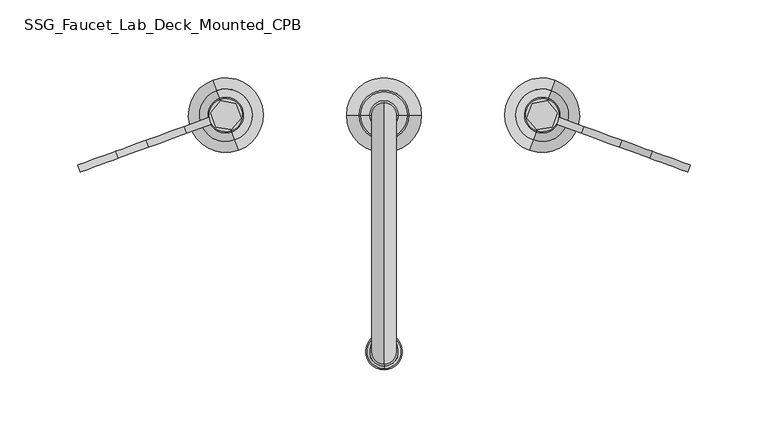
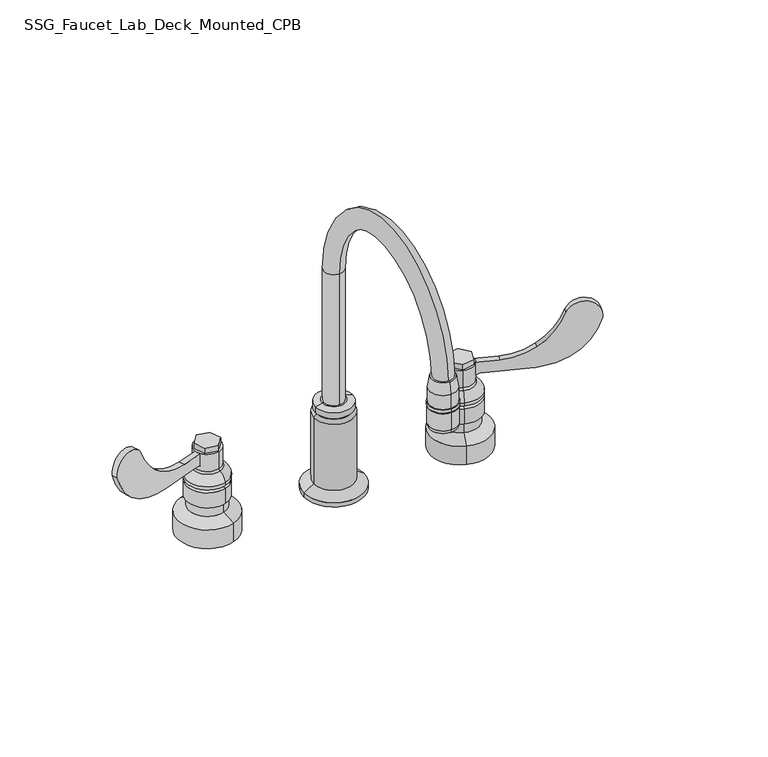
"""IFC4 building model written with IfcOpenShell, lengths in millimetres: flow terminal geometry."""

from ifc_helpers import new_model, si_unit, point, frame, frame_2d, origin, origin_with_axes, place, context, project, spatial, polyline, circle_curve, ellipse_curve, trimmed, segment, composite_curve, outline, extrude, source, transform, mapped, element, save
from ifc_brep_helpers import plane_surface, cylinder_surface, revolved_surface, advanced_brep


def ssg_faucet_lab_deck_mounted_cpb_c43a80bb(model_context):
    return source(origin(), model_context, "Body", "SolidModel", [
        extrude(outline(polyline([(111.3562202, 1.6819252), (107.9627391, -7.6415875), (98.1915996, -9.3645031), (91.8139413, -1.7639059), (95.2074224, 7.5596069), (104.9785618, 9.2825224), (111.3562202, 1.6819252)])), frame((0.0, 0.0, 70.81404), z_axis=(0.0, 0.0, 1.0), x_axis=(1.0, 0.0, 0.0)), (0.0, 0.0, 1.0), 4.4529011),
        advanced_brep(
        [(97.6164778, -10.9446373, 54.3169784), (105.5835222, 10.9446373, 54.3169784), (107.3615028, 15.8295988, 47.6632436), (95.8384972, -15.8295988, 47.6632436), (107.3615028, 15.8295988, 44.9441585), (95.8384972, -15.8295988, 44.9441585), (105.8325495, 11.6288342, 44.9441585), (97.3674505, -11.6288342, 44.9441585), (105.8325495, 11.6288342, 42.3435439), (97.3674505, -11.6288342, 42.3435439), (101.6, 0.0, 42.3435439), (101.6, 0.0, 70.81404), (105.2603622, 10.0567624, 70.81404), (97.9396378, -10.0567624, 70.81404), (105.2603622, 10.0567624, 56.3073231), (97.9396378, -10.0567624, 56.3073231)],
        [
            (0, 1, circle_curve(frame((101.6, 0.0, 54.3169784), z_axis=(0.0, 0.0, -1.0), x_axis=(0.3420201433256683, 0.9396926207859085, 0.0)), 11.6470398)),
            (1, 2, circle_curve(frame((103.1940525, 4.3796233, 43.5010385), z_axis=(-0.9396926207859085, 0.3420201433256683, 0.0), x_axis=(0.3420201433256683, 0.9396926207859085, 0.0)), 12.8760837)),
            (2, 3, circle_curve(frame((101.6, 0.0, 47.6632436), z_axis=(0.0, 0.0, 1.0), x_axis=(0.3420201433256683, 0.9396926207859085, 0.0)), 16.8455071)),
            (3, 0, circle_curve(frame((100.0059475, -4.3796233, 43.5010385), z_axis=(-0.9396926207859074, 0.3420201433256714, 0.0), x_axis=(-0.3420201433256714, -0.9396926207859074, 0.0)), 12.8760837)),
            (1, 0, circle_curve(frame((101.6, 0.0, 54.3169784), z_axis=(0.0, 0.0, -1.0), x_axis=(0.3420201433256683, 0.9396926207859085, 0.0)), 11.6470398)),
            (3, 2, circle_curve(frame((101.6, 0.0, 47.6632436), z_axis=(0.0, 0.0, 1.0), x_axis=(0.3420201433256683, 0.9396926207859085, 0.0)), 16.8455071)),
            (2, 4),
            (4, 5, circle_curve(frame((101.6, 0.0, 44.9441585), z_axis=(0.0, 0.0, 1.0), x_axis=(0.3420201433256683, 0.9396926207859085, 0.0)), 16.8455071)),
            (5, 3),
            (5, 4, circle_curve(frame((101.6, 0.0, 44.9441585), z_axis=(0.0, 0.0, 1.0), x_axis=(0.3420201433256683, 0.9396926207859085, 0.0)), 16.8455071)),
            (4, 6),
            (6, 7, circle_curve(frame((101.6, 0.0, 44.9441585), z_axis=(0.0, 0.0, 1.0), x_axis=(0.3420201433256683, 0.9396926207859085, 0.0)), 12.3751469)),
            (7, 5),
            (7, 6, circle_curve(frame((101.6, 0.0, 44.9441585), z_axis=(0.0, 0.0, 1.0), x_axis=(0.3420201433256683, 0.9396926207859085, 0.0)), 12.3751469)),
            (6, 8),
            (8, 9, circle_curve(frame((101.6, 0.0, 42.3435439), z_axis=(0.0, 0.0, 1.0), x_axis=(0.3420201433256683, 0.9396926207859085, 0.0)), 12.3751469)),
            (9, 7),
            (9, 8, circle_curve(frame((101.6, 0.0, 42.3435439), z_axis=(0.0, 0.0, 1.0), x_axis=(0.3420201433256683, 0.9396926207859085, 0.0)), 12.3751469)),
            (8, 10),
            (10, 9),
            (11, 12),
            (12, 13, circle_curve(frame((101.6, 0.0, 70.81404), z_axis=(0.0, 0.0, 1.0), x_axis=(0.3420201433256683, 0.9396926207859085, 0.0)), 10.702183)),
            (13, 11),
            (13, 12, circle_curve(frame((101.6, 0.0, 70.81404), z_axis=(0.0, 0.0, 1.0), x_axis=(0.3420201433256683, 0.9396926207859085, 0.0)), 10.702183)),
            (12, 14),
            (14, 15, circle_curve(frame((101.6, 0.0, 56.3073231), z_axis=(0.0, 0.0, 1.0), x_axis=(0.3420201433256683, 0.9396926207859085, 0.0)), 10.702183)),
            (15, 13),
            (15, 14, circle_curve(frame((101.6, 0.0, 56.3073231), z_axis=(0.0, 0.0, 1.0), x_axis=(0.3420201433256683, 0.9396926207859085, 0.0)), 10.702183)),
            (14, 1, circle_curve(frame((106.1389308, 12.47061, 56.3073231), z_axis=(0.9396926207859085, -0.3420201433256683, 0.0), x_axis=(0.3420201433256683, 0.9396926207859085, 0.0)), 2.568763)),
            (0, 15, circle_curve(frame((97.0610692, -12.47061, 56.3073231), z_axis=(0.9396926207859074, -0.3420201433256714, 0.0), x_axis=(-0.3420201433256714, -0.9396926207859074, 0.0)), 2.568763)),
        ],
        [
            revolved_surface(trimmed(ellipse_curve(frame((103.1940525, 4.3796233, 43.5010385), z_axis=(0.9396926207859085, -0.3420201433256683, 0.0), x_axis=(0.3420201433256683, 0.9396926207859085, 0.0)), 12.8760837, 12.8760837), [point((107.3615028, 15.8295988, 47.6632436))], [point((105.5835222, 10.9446373, 54.3169784))], True, "CARTESIAN"), (101.6, 0.0, 52.2671683), (0.0, 0.0, 1.0)),
            cylinder_surface(frame((101.6, 0.0, 52.2671683), z_axis=(0.0, 0.0, 1.0), x_axis=(0.3420201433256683, 0.9396926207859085, 0.0)), 16.8455071),
            plane_surface(frame((101.6, 0.0, 44.9441585), z_axis=(0.0, 0.0, -1.0), x_axis=(0.3420201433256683, 0.9396926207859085, 0.0))),
            cylinder_surface(frame((101.6, 0.0, 52.2671683), z_axis=(0.0, 0.0, 1.0), x_axis=(0.3420201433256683, 0.9396926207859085, 0.0)), 12.3751469),
            plane_surface(frame((101.6, 0.0, 42.3435439), z_axis=(0.0, 0.0, -1.0), x_axis=(0.3420201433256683, 0.9396926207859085, 0.0))),
            plane_surface(frame((101.6, 0.0, 70.81404), z_axis=(0.0, 0.0, 1.0), x_axis=(0.3420201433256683, 0.9396926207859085, 0.0))),
            cylinder_surface(frame((101.6, 0.0, 52.2671683), z_axis=(0.0, 0.0, 1.0), x_axis=(0.3420201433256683, 0.9396926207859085, 0.0)), 10.702183),
            revolved_surface(trimmed(ellipse_curve(frame((106.1389308, 12.47061, 56.3073231), z_axis=(-0.9396926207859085, 0.3420201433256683, 0.0), x_axis=(0.3420201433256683, 0.9396926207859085, 0.0)), 2.568763, 2.568763), [point((105.5835222, 10.9446373, 54.3169784))], [point((105.2603622, 10.0567624, 56.3073231))], True, "CARTESIAN"), (101.6, 0.0, 52.2671683), (0.0, 0.0, 1.0)),
        ],
        [
            (0, [[1, 2, 3, 4]]),
            (0, [[5, -4, 6, -2]]),
            (1, [[-3, 7, 8, 9]]),
            (1, [[-6, -9, 10, -7]]),
            (2, [[-8, 11, 12, 13]]),
            (2, [[-10, -13, 14, -11]]),
            (3, [[-12, 15, 16, 17]]),
            (3, [[-14, -17, 18, -15]]),
            (4, [[-16, 19, 20]]),
            (4, [[-18, -20, -19]]),
            (5, [[21, 22, 23]]),
            (5, [[-23, 24, -21]]),
            (6, [[-22, 25, 26, 27]]),
            (6, [[-24, -27, 28, -25]]),
            (7, [[-26, 29, -1, 30]]),
            (7, [[-28, -30, -5, -29]]),
        ],
    ),
        extrude(outline(composite_curve([segment(trimmed(circle_curve(frame_2d((0.0, 4.1622664)), 4.1622664), [point((0.8521871, 0.0881728))], [point((4.1622663, 4.1622664))], True, "CARTESIAN"), True, "CONTINUOUS"), segment(polyline([(4.1622663, 4.1622664), (4.1622663, 39.2241433)]), True, "CONTINUOUS"), segment(trimmed(circle_curve(frame_2d((38.7962827, 41.681158)), 34.72106), [point((4.1622663, 39.2241433))], [point((4.7089611, 48.2846812))], False, "CARTESIAN"), True, "CONTINUOUS"), segment(trimmed(circle_curve(frame_2d((53.1816235, 43.6645786)), 48.6923438), [point((4.7089611, 48.2846812))], [point((41.1460336, 90.8460254))], False, "CARTESIAN"), True, "CONTINUOUS"), segment(trimmed(circle_curve(frame_2d((42.9702995, 77.4580282)), 13.511714), [point((41.1460336, 90.8460254))], [point((48.0778892, 64.9488738))], False, "CARTESIAN"), True, "CONTINUOUS"), segment(trimmed(circle_curve(frame_2d((66.051944, 14.6600326)), 53.40444), [point((48.0778892, 64.9488738))], [point((21.5524774, 44.1868285))], True, "CARTESIAN"), True, "CONTINUOUS"), segment(trimmed(circle_curve(frame_2d((60.6830027, 18.222494)), 46.9610975), [point((21.5524774, 44.1868285))], [point((13.7219052, 18.222494))], True, "CARTESIAN"), True, "CONTINUOUS"), segment(polyline([(13.7219052, 18.222494), (13.7219052, 0.0881728), (0.8521871, 0.0881728)]), True, "CONTINUOUS")], self_intersect=False)), frame((109.5318378, -5.4210262, 57.0868031), z_axis=(0.34202014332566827, 0.9396926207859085, 0.0), x_axis=(0.0, 0.0, 1.0)), (0.0, 0.0, 1.0), 4.7625),
        extrude(outline(polyline([(-111.3562202, 1.6819252), (-104.9785618, 9.2825224), (-95.2074224, 7.5596069), (-91.8139413, -1.7639059), (-98.1915996, -9.3645031), (-107.9627391, -7.6415875), (-111.3562202, 1.6819252)])), frame((0.0, 0.0, 70.81404), z_axis=(0.0, 0.0, 1.0), x_axis=(1.0, 0.0, 0.0)), (0.0, 0.0, 1.0), 4.4529011),
        advanced_brep(
        [(-95.8384972, -15.8295988, 47.6632436), (-107.3615028, 15.8295988, 47.6632436), (-105.5835222, 10.9446373, 54.3169784), (-97.6164778, -10.9446373, 54.3169784), (-95.8384972, -15.8295988, 44.9441585), (-107.3615028, 15.8295988, 44.9441585), (-97.3674505, -11.6288342, 44.9441585), (-105.8325495, 11.6288342, 44.9441585), (-97.3674505, -11.6288342, 42.3435439), (-105.8325495, 11.6288342, 42.3435439), (-101.6, 0.0, 42.3435439), (-97.9396378, -10.0567624, 70.81404), (-105.2603622, 10.0567624, 70.81404), (-101.6, 0.0, 70.81404), (-97.9396378, -10.0567624, 56.3073231), (-105.2603622, 10.0567624, 56.3073231)],
        [
            (0, 1, circle_curve(frame((-101.6, 0.0, 47.6632436), z_axis=(0.0, 0.0, 1.0), x_axis=(-0.3420201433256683, 0.9396926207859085, 0.0)), 16.8455071)),
            (1, 2, circle_curve(frame((-103.1940525, 4.3796233, 43.5010385), z_axis=(0.9396926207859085, 0.3420201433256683, 0.0), x_axis=(-0.3420201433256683, 0.9396926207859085, 0.0)), 12.8760837)),
            (2, 3, circle_curve(frame((-101.6, 0.0, 54.3169784), z_axis=(0.0, 0.0, -1.0), x_axis=(-0.3420201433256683, 0.9396926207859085, 0.0)), 11.6470398)),
            (3, 0, circle_curve(frame((-100.0059475, -4.3796233, 43.5010385), z_axis=(0.9396926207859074, 0.3420201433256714, 0.0), x_axis=(0.3420201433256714, -0.9396926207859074, 0.0)), 12.8760837)),
            (1, 0, circle_curve(frame((-101.6, 0.0, 47.6632436), z_axis=(0.0, 0.0, 1.0), x_axis=(-0.3420201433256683, 0.9396926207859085, 0.0)), 16.8455071)),
            (3, 2, circle_curve(frame((-101.6, 0.0, 54.3169784), z_axis=(0.0, 0.0, -1.0), x_axis=(-0.3420201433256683, 0.9396926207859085, 0.0)), 11.6470398)),
            (4, 5, circle_curve(frame((-101.6, 0.0, 44.9441585), z_axis=(0.0, 0.0, 1.0), x_axis=(-0.3420201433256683, 0.9396926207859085, 0.0)), 16.8455071)),
            (5, 1),
            (0, 4),
            (5, 4, circle_curve(frame((-101.6, 0.0, 44.9441585), z_axis=(0.0, 0.0, 1.0), x_axis=(-0.3420201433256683, 0.9396926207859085, 0.0)), 16.8455071)),
            (6, 7, circle_curve(frame((-101.6, 0.0, 44.9441585), z_axis=(0.0, 0.0, 1.0), x_axis=(-0.3420201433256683, 0.9396926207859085, 0.0)), 12.3751469)),
            (7, 5),
            (4, 6),
            (7, 6, circle_curve(frame((-101.6, 0.0, 44.9441585), z_axis=(0.0, 0.0, 1.0), x_axis=(-0.3420201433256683, 0.9396926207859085, 0.0)), 12.3751469)),
            (8, 9, circle_curve(frame((-101.6, 0.0, 42.3435439), z_axis=(0.0, 0.0, 1.0), x_axis=(-0.3420201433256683, 0.9396926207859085, 0.0)), 12.3751469)),
            (9, 7),
            (6, 8),
            (9, 8, circle_curve(frame((-101.6, 0.0, 42.3435439), z_axis=(0.0, 0.0, 1.0), x_axis=(-0.3420201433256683, 0.9396926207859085, 0.0)), 12.3751469)),
            (10, 9),
            (8, 10),
            (11, 12, circle_curve(frame((-101.6, 0.0, 70.81404), z_axis=(0.0, 0.0, 1.0), x_axis=(-0.3420201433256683, 0.9396926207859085, 0.0)), 10.702183)),
            (12, 13),
            (13, 11),
            (12, 11, circle_curve(frame((-101.6, 0.0, 70.81404), z_axis=(0.0, 0.0, 1.0), x_axis=(-0.3420201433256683, 0.9396926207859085, 0.0)), 10.702183)),
            (14, 15, circle_curve(frame((-101.6, 0.0, 56.3073231), z_axis=(0.0, 0.0, 1.0), x_axis=(-0.3420201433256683, 0.9396926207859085, 0.0)), 10.702183)),
            (15, 12),
            (11, 14),
            (15, 14, circle_curve(frame((-101.6, 0.0, 56.3073231), z_axis=(0.0, 0.0, 1.0), x_axis=(-0.3420201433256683, 0.9396926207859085, 0.0)), 10.702183)),
            (2, 15, circle_curve(frame((-106.1389308, 12.47061, 56.3073231), z_axis=(-0.9396926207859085, -0.3420201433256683, 0.0), x_axis=(-0.3420201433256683, 0.9396926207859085, 0.0)), 2.568763)),
            (14, 3, circle_curve(frame((-97.0610692, -12.47061, 56.3073231), z_axis=(-0.9396926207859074, -0.3420201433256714, 0.0), x_axis=(0.3420201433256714, -0.9396926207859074, 0.0)), 2.568763)),
        ],
        [
            revolved_surface(trimmed(ellipse_curve(frame((-103.1940525, 4.3796233, 43.5010385), z_axis=(-0.9396926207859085, -0.3420201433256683, 0.0), x_axis=(-0.3420201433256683, 0.9396926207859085, 0.0)), 12.8760837, 12.8760837), [point((-105.5835222, 10.9446373, 54.3169784))], [point((-107.3615028, 15.8295988, 47.6632436))], True, "CARTESIAN"), (-101.6, 0.0, 52.2671683), (0.0, 0.0, -1.0)),
            cylinder_surface(frame((-101.6, 0.0, 52.2671683), z_axis=(0.0, 0.0, -1.0), x_axis=(-0.3420201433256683, 0.9396926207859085, 0.0)), 16.8455071),
            plane_surface(frame((-101.6, 0.0, 44.9441585), z_axis=(0.0, 0.0, -1.0), x_axis=(-0.3420201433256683, 0.9396926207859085, 0.0))),
            cylinder_surface(frame((-101.6, 0.0, 52.2671683), z_axis=(0.0, 0.0, -1.0), x_axis=(-0.3420201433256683, 0.9396926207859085, 0.0)), 12.3751469),
            plane_surface(frame((-101.6, 0.0, 42.3435439), z_axis=(0.0, 0.0, -1.0), x_axis=(-0.3420201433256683, 0.9396926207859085, 0.0))),
            plane_surface(frame((-101.6, 0.0, 70.81404), z_axis=(0.0, 0.0, 1.0), x_axis=(-0.3420201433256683, 0.9396926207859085, 0.0))),
            cylinder_surface(frame((-101.6, 0.0, 52.2671683), z_axis=(0.0, 0.0, -1.0), x_axis=(-0.3420201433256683, 0.9396926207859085, 0.0)), 10.702183),
            revolved_surface(trimmed(ellipse_curve(frame((-106.1389308, 12.47061, 56.3073231), z_axis=(0.9396926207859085, 0.3420201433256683, 0.0), x_axis=(-0.3420201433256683, 0.9396926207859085, 0.0)), 2.568763, 2.568763), [point((-105.2603622, 10.0567624, 56.3073231))], [point((-105.5835222, 10.9446373, 54.3169784))], True, "CARTESIAN"), (-101.6, 0.0, 52.2671683), (0.0, 0.0, -1.0)),
        ],
        [
            (0, [[1, 2, 3, 4]]),
            (0, [[5, -4, 6, -2]]),
            (1, [[7, 8, -1, 9]]),
            (1, [[10, -9, -5, -8]]),
            (2, [[11, 12, -7, 13]]),
            (2, [[14, -13, -10, -12]]),
            (3, [[15, 16, -11, 17]]),
            (3, [[18, -17, -14, -16]]),
            (4, [[19, -15, 20]]),
            (4, [[-20, -18, -19]]),
            (5, [[21, 22, 23]]),
            (5, [[24, -23, -22]]),
            (6, [[25, 26, -21, 27]]),
            (6, [[28, -27, -24, -26]]),
            (7, [[-3, 29, -25, 30]]),
            (7, [[-6, -30, -28, -29]]),
        ],
    ),
        extrude(outline(composite_curve([segment(polyline([(-12.8697059, 0.0), (0.0, 0.0), (0.0, -18.134328)]), True, "CONTINUOUS"), segment(trimmed(circle_curve(frame_2d((46.9611052, -18.134328)), 46.9611052), [point((0.0, -18.134328))], [point((7.8305735, -44.0986667))], True, "CARTESIAN"), True, "CONTINUOUS"), segment(trimmed(circle_curve(frame_2d((52.3300449, -14.5718677)), 53.4044458), [point((7.8305735, -44.0986667))], [point((34.3573135, -64.8611881))], True, "CARTESIAN"), True, "CONTINUOUS"), segment(trimmed(circle_curve(frame_2d((29.248414, -77.369835)), 13.5117394), [point((34.3573135, -64.8611881))], [point((27.4241447, -90.7578574))], False, "CARTESIAN"), True, "CONTINUOUS"), segment(trimmed(circle_curve(frame_2d((39.4597353, -43.5764067)), 48.6923478), [point((27.4241447, -90.7578574))], [point((-9.012931, -48.1965097))], False, "CARTESIAN"), True, "CONTINUOUS"), segment(trimmed(circle_curve(frame_2d((25.0743897, -41.5929866)), 34.7210592), [point((-9.012931, -48.1965097))], [point((-9.5596258, -39.135972))], False, "CARTESIAN"), True, "CONTINUOUS"), segment(polyline([(-9.5596258, -39.135972), (-9.5596258, -4.0740946)]), True, "CONTINUOUS"), segment(trimmed(circle_curve(frame_2d((-13.7218933, -4.0740946)), 4.1622674), [point((-9.5596258, -4.0740946))], [point((-12.8697059, 0.0))], True, "CARTESIAN"), True, "CONTINUOUS")], self_intersect=False)), frame((-109.6146925, -5.4511828, 70.8086972), z_axis=(-0.3420201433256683, 0.9396926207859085, 0.0), x_axis=(0.0, 0.0, 1.0)), (0.0, 0.0, 1.0), 4.7625),
        advanced_brep(
        [(0.0, -141.20235, 177.6227738), (0.0, -162.8427859, 177.6227738), (0.0, -161.3394214, 187.1146436), (0.0, -142.7057145, 187.1146436), (0.0, -141.20235, 165.7525962), (0.0, -162.8427859, 165.7525962), (0.0, -140.3082608, 165.7525962), (0.0, -163.7368751, 165.7525962), (0.0, -140.3082608, 163.2819791), (0.0, -163.7368751, 163.2819791), (0.0, -142.0514383, 163.2819791), (0.0, -161.9936976, 163.2819791), (0.0, -142.0514383, 162.4252329), (0.0, -161.9936976, 162.4252329), (0.0, -140.5770378, 162.4252329), (0.0, -163.4680981, 162.4252329), (0.0, -140.5770378, 148.0179305), (0.0, -163.4680981, 148.0179305), (0.0, -141.3361244, 145.184981), (0.0, -162.7090116, 145.184981), (0.0, -152.022568, 145.184981), (0.0, -152.022568, 187.1146436)],
        [
            (0, 1, circle_curve(frame((0.0, -152.022568, 177.6227738), z_axis=(0.0, 0.0, 1.0), x_axis=(0.0, -1.0, 0.0)), 10.820218)),
            (1, 2),
            (2, 3, circle_curve(frame((0.0, -152.022568, 187.1146436), z_axis=(0.0, 0.0, -1.0), x_axis=(0.0, -1.0, 0.0)), 9.3168535)),
            (3, 0),
            (1, 0, circle_curve(frame((0.0, -152.022568, 177.6227738), z_axis=(0.0, 0.0, 1.0), x_axis=(0.0, -1.0, 0.0)), 10.820218)),
            (3, 2, circle_curve(frame((0.0, -152.022568, 187.1146436), z_axis=(0.0, 0.0, -1.0), x_axis=(0.0, -1.0, 0.0)), 9.3168535)),
            (4, 5, circle_curve(frame((0.0, -152.022568, 165.7525962), z_axis=(0.0, 0.0, 1.0), x_axis=(0.0, -1.0, 0.0)), 10.820218)),
            (5, 1),
            (0, 4),
            (5, 4, circle_curve(frame((0.0, -152.022568, 165.7525962), z_axis=(0.0, 0.0, 1.0), x_axis=(0.0, -1.0, 0.0)), 10.820218)),
            (6, 7, circle_curve(frame((0.0, -152.022568, 165.7525962), z_axis=(0.0, 0.0, 1.0), x_axis=(0.0, -1.0, 0.0)), 11.7143072)),
            (7, 5),
            (4, 6),
            (7, 6, circle_curve(frame((0.0, -152.022568, 165.7525962), z_axis=(0.0, 0.0, 1.0), x_axis=(0.0, -1.0, 0.0)), 11.7143072)),
            (8, 9, circle_curve(frame((0.0, -152.022568, 163.2819791), z_axis=(0.0, 0.0, 1.0), x_axis=(0.0, -1.0, 0.0)), 11.7143072)),
            (9, 7),
            (6, 8),
            (9, 8, circle_curve(frame((0.0, -152.022568, 163.2819791), z_axis=(0.0, 0.0, 1.0), x_axis=(0.0, -1.0, 0.0)), 11.7143072)),
            (10, 11, circle_curve(frame((0.0, -152.022568, 163.2819791), z_axis=(0.0, 0.0, 1.0), x_axis=(0.0, -1.0, 0.0)), 9.9711296)),
            (11, 9),
            (8, 10),
            (11, 10, circle_curve(frame((0.0, -152.022568, 163.2819791), z_axis=(0.0, 0.0, 1.0), x_axis=(0.0, -1.0, 0.0)), 9.9711296)),
            (12, 13, circle_curve(frame((0.0, -152.022568, 162.4252329), z_axis=(0.0, 0.0, 1.0), x_axis=(0.0, -1.0, 0.0)), 9.9711296)),
            (13, 11),
            (10, 12),
            (13, 12, circle_curve(frame((0.0, -152.022568, 162.4252329), z_axis=(0.0, 0.0, 1.0), x_axis=(0.0, -1.0, 0.0)), 9.9711296)),
            (14, 15, circle_curve(frame((0.0, -152.022568, 162.4252329), z_axis=(0.0, 0.0, 1.0), x_axis=(0.0, -1.0, 0.0)), 11.4455301)),
            (15, 13),
            (12, 14),
            (15, 14, circle_curve(frame((0.0, -152.022568, 162.4252329), z_axis=(0.0, 0.0, 1.0), x_axis=(0.0, -1.0, 0.0)), 11.4455301)),
            (16, 17, circle_curve(frame((0.0, -152.022568, 148.0179305), z_axis=(0.0, 0.0, 1.0), x_axis=(0.0, -1.0, 0.0)), 11.4455301)),
            (17, 15),
            (14, 16),
            (17, 16, circle_curve(frame((0.0, -152.022568, 148.0179305), z_axis=(0.0, 0.0, 1.0), x_axis=(0.0, -1.0, 0.0)), 11.4455301)),
            (18, 19, circle_curve(frame((0.0, -152.022568, 145.184981), z_axis=(0.0, 0.0, 1.0), x_axis=(0.0, -1.0, 0.0)), 10.6864436)),
            (19, 17),
            (16, 18),
            (19, 18, circle_curve(frame((0.0, -152.022568, 145.184981), z_axis=(0.0, 0.0, 1.0), x_axis=(0.0, -1.0, 0.0)), 10.6864436)),
            (20, 19),
            (18, 20),
            (2, 21),
            (21, 3),
        ],
        [
            revolved_surface(polyline([(0.0, -161.3394214, 187.1146436), (0.0, -162.8427859, 177.6227738)]), (0.0, -152.022568, 187.1146436), (0.0, 0.0, -1.0)),
            cylinder_surface(frame((0.0, -152.022568, 187.1146436), z_axis=(0.0, 0.0, -1.0), x_axis=(0.0, -1.0, 0.0)), 10.820218),
            plane_surface(frame((0.0, -152.022568, 165.7525962), z_axis=(0.0, 0.0, 1.0), x_axis=(0.0, -1.0, 0.0))),
            cylinder_surface(frame((0.0, -152.022568, 187.1146436), z_axis=(0.0, 0.0, -1.0), x_axis=(0.0, -1.0, 0.0)), 11.7143072),
            plane_surface(frame((0.0, -152.022568, 163.2819791), z_axis=(0.0, 0.0, -1.0), x_axis=(0.0, -1.0, 0.0))),
            cylinder_surface(frame((0.0, -152.022568, 187.1146436), z_axis=(0.0, 0.0, -1.0), x_axis=(0.0, -1.0, 0.0)), 9.9711296),
            plane_surface(frame((0.0, -152.022568, 162.4252329), z_axis=(0.0, 0.0, 1.0), x_axis=(0.0, -1.0, 0.0))),
            cylinder_surface(frame((0.0, -152.022568, 187.1146436), z_axis=(0.0, 0.0, -1.0), x_axis=(0.0, -1.0, 0.0)), 11.4455301),
            revolved_surface(polyline([(0.0, -163.4680981, 148.0179305), (0.0, -162.7090116, 145.184981)]), (0.0, -152.022568, 187.1146436), (0.0, 0.0, -1.0)),
            plane_surface(frame((0.0, -152.022568, 145.184981), z_axis=(0.0, 0.0, -1.0), x_axis=(0.0, -1.0, 0.0))),
            plane_surface(frame((0.0, -152.022568, 187.1146436), z_axis=(0.0, 0.0, 1.0), x_axis=(0.0, -1.0, 0.0))),
        ],
        [
            (0, [[1, 2, 3, 4]]),
            (0, [[5, -4, 6, -2]]),
            (1, [[7, 8, -1, 9]]),
            (1, [[10, -9, -5, -8]]),
            (2, [[11, 12, -7, 13]]),
            (2, [[14, -13, -10, -12]]),
            (3, [[15, 16, -11, 17]]),
            (3, [[18, -17, -14, -16]]),
            (4, [[19, 20, -15, 21]]),
            (4, [[22, -21, -18, -20]]),
            (5, [[23, 24, -19, 25]]),
            (5, [[26, -25, -22, -24]]),
            (6, [[27, 28, -23, 29]]),
            (6, [[30, -29, -26, -28]]),
            (7, [[31, 32, -27, 33]]),
            (7, [[34, -33, -30, -32]]),
            (8, [[35, 36, -31, 37]]),
            (8, [[38, -37, -34, -36]]),
            (9, [[39, -35, 40]]),
            (9, [[-40, -38, -39]]),
            (10, [[-3, 41, 42]]),
            (10, [[-6, -42, -41]]),
        ],
    ),
        advanced_brep(
        [(0.0, 7.9375, 74.8109375), (0.0, -7.9375, 74.8109375), (0.0, 7.9375, 185.9359375), (0.0, -7.9375, 185.9359375), (0.0, -160.1290077, 187.2358908), (0.0, -144.2559071, 186.990327)],
        [
            (0, 1, circle_curve(frame((0.0, 0.0, 74.8109375), z_axis=(0.0, 0.0, -1.0), x_axis=(0.0, -1.0, 0.0)), 7.9375)),
            (1, 0, circle_curve(frame((0.0, 0.0, 74.8109375), z_axis=(0.0, 0.0, -1.0), x_axis=(0.0, -1.0, 0.0)), 7.9375)),
            (0, 2),
            (2, 3, circle_curve(frame((0.0, 0.0, 185.9359375), z_axis=(0.0, 0.0, -1.0), x_axis=(0.0, -1.0, 0.0)), 7.9375)),
            (3, 1),
            (3, 2, circle_curve(frame((0.0, 0.0, 185.9359375), z_axis=(0.0, 0.0, -1.0), x_axis=(0.0, -1.0, 0.0)), 7.9375)),
            (4, 5, circle_curve(frame((0.0, -152.1924574, 187.1131089), z_axis=(0.0, -0.015468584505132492, -0.9998803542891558), x_axis=(0.0, 0.9998803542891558, -0.015468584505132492)), 7.9375)),
            (5, 4, circle_curve(frame((0.0, -152.1924574, 187.1131089), z_axis=(0.0, -0.015468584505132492, -0.9998803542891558), x_axis=(0.0, 0.9998803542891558, -0.015468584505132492)), 7.9375)),
            (5, 3, circle_curve(frame((0.0, -76.1007813, 185.9359375), z_axis=(-1.0, 0.0, 0.0), x_axis=(0.0, 1.0, 0.0)), 68.1632813)),
            (2, 4, circle_curve(frame((0.0, -76.1007813, 185.9359375), z_axis=(1.0, 0.0, 0.0), x_axis=(0.0, 1.0, 0.0)), 84.0382813)),
        ],
        [
            plane_surface(frame((0.0, 0.0992187, 74.8109375), z_axis=(0.0, 0.0, -1.0), x_axis=(1.0, 0.0, 0.0))),
            cylinder_surface(frame((0.0, 0.0, 74.8109375), z_axis=(0.0, 0.0, -1.0), x_axis=(0.0, -1.0, 0.0)), 7.9375),
            plane_surface(frame((0.0, -152.2916642, 187.1146436), z_axis=(0.0, -0.015468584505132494, -0.9998803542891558), x_axis=(1.0, 0.0, 0.0))),
            revolved_surface(trimmed(ellipse_curve(frame((0.0, 0.0, 185.9359375), z_axis=(0.0, 0.0, -1.0), x_axis=(0.0, -1.0, 0.0)), 7.9375, 7.9375), [point((0.0, 7.9375, 185.9359375))], [point((0.0, -7.9375, 185.9359375))], True, "CARTESIAN"), (0.0, -76.1007813, 185.9359375), (1.0, 0.0, 0.0)),
            revolved_surface(trimmed(ellipse_curve(frame((0.0, 0.0, 185.9359375), z_axis=(0.0, 0.0, -1.0), x_axis=(0.0, -1.0, 0.0)), 7.9375, 7.9375), [point((0.0, -7.9375, 185.9359375))], [point((0.0, 7.9375, 185.9359375))], True, "CARTESIAN"), (0.0, -76.1007813, 185.9359375), (1.0, 0.0, 0.0)),
        ],
        [
            (0, [[1, 2]]),
            (1, [[-1, 3, 4, 5]]),
            (1, [[-2, -5, 6, -3]]),
            (2, [[7, 8]]),
            (3, [[9, -4, 10, -8]]),
            (4, [[-10, -6, -9, -7]]),
        ],
    ),
        advanced_brep(
        [(93.3971947, -22.5370224, 0.0), (109.8028053, 22.5370224, 0.0), (101.6, 0.0, 0.0), (101.6, 0.0, 42.3920344), (107.3615028, 15.8295988, 42.3920344), (95.8384972, -15.8295988, 42.3920344), (107.3615028, 15.8295988, 29.6920344), (95.8384972, -15.8295988, 29.6920344), (106.7216795, 14.0716988, 29.6920344), (96.4783205, -14.0716988, 29.6920344), (106.7216795, 14.0716988, 21.0404673), (96.4783205, -14.0716988, 21.0404673), (109.8028053, 22.5370224, 15.8393443), (93.3971947, -22.5370224, 15.8393443)],
        [
            (0, 1, circle_curve(frame((101.6, 0.0, 0.0), z_axis=(0.0, 0.0, -1.0), x_axis=(0.3420201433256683, 0.9396926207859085, 0.0)), 23.9833983)),
            (1, 2),
            (2, 0),
            (1, 0, circle_curve(frame((101.6, 0.0, 0.0), z_axis=(0.0, 0.0, -1.0), x_axis=(0.3420201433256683, 0.9396926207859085, 0.0)), 23.9833983)),
            (3, 4),
            (4, 5, circle_curve(frame((101.6, 0.0, 42.3920344), z_axis=(0.0, 0.0, 1.0), x_axis=(0.3420201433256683, 0.9396926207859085, 0.0)), 16.8455071)),
            (5, 3),
            (5, 4, circle_curve(frame((101.6, 0.0, 42.3920344), z_axis=(0.0, 0.0, 1.0), x_axis=(0.3420201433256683, 0.9396926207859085, 0.0)), 16.8455071)),
            (4, 6),
            (6, 7, circle_curve(frame((101.6, 0.0, 29.6920344), z_axis=(0.0, 0.0, 1.0), x_axis=(0.3420201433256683, 0.9396926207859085, 0.0)), 16.8455071)),
            (7, 5),
            (7, 6, circle_curve(frame((101.6, 0.0, 29.6920344), z_axis=(0.0, 0.0, 1.0), x_axis=(0.3420201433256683, 0.9396926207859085, 0.0)), 16.8455071)),
            (6, 8),
            (8, 9, circle_curve(frame((101.6, 0.0, 29.6920344), z_axis=(0.0, 0.0, 1.0), x_axis=(0.3420201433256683, 0.9396926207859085, 0.0)), 14.9747891)),
            (9, 7),
            (9, 8, circle_curve(frame((101.6, 0.0, 29.6920344), z_axis=(0.0, 0.0, 1.0), x_axis=(0.3420201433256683, 0.9396926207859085, 0.0)), 14.9747891)),
            (8, 10),
            (10, 11, circle_curve(frame((101.6, 0.0, 21.0404673), z_axis=(0.0, 0.0, 1.0), x_axis=(0.3420201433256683, 0.9396926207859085, 0.0)), 14.9747891)),
            (11, 9),
            (11, 10, circle_curve(frame((101.6, 0.0, 21.0404673), z_axis=(0.0, 0.0, 1.0), x_axis=(0.3420201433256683, 0.9396926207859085, 0.0)), 14.9747891)),
            (10, 12),
            (12, 13, circle_curve(frame((101.6, 0.0, 15.8393443), z_axis=(0.0, 0.0, 1.0), x_axis=(0.3420201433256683, 0.9396926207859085, 0.0)), 23.9833983)),
            (13, 11),
            (13, 12, circle_curve(frame((101.6, 0.0, 15.8393443), z_axis=(0.0, 0.0, 1.0), x_axis=(0.3420201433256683, 0.9396926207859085, 0.0)), 23.9833983)),
            (12, 1),
            (0, 13),
        ],
        [
            plane_surface(frame((101.6, 0.0, 0.0), z_axis=(0.0, 0.0, -1.0), x_axis=(0.3420201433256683, 0.9396926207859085, 0.0))),
            plane_surface(frame((101.6, 0.0, 42.3920344), z_axis=(0.0, 0.0, 1.0), x_axis=(0.3420201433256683, 0.9396926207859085, 0.0))),
            cylinder_surface(frame((101.6, 0.0, 52.3156587), z_axis=(0.0, 0.0, 1.0), x_axis=(0.3420201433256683, 0.9396926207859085, 0.0)), 16.8455071),
            plane_surface(frame((101.6, 0.0, 29.6920344), z_axis=(0.0, 0.0, -1.0), x_axis=(0.3420201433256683, 0.9396926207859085, 0.0))),
            cylinder_surface(frame((101.6, 0.0, 52.3156587), z_axis=(0.0, 0.0, 1.0), x_axis=(0.3420201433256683, 0.9396926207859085, 0.0)), 14.9747891),
            revolved_surface(polyline([(109.8028053, 22.5370224, 15.8393443), (106.7216795, 14.0716988, 21.0404673)]), (101.6, 0.0, 52.3156587), (0.0, 0.0, 1.0)),
            cylinder_surface(frame((101.6, 0.0, 52.3156587), z_axis=(0.0, 0.0, 1.0), x_axis=(0.3420201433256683, 0.9396926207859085, 0.0)), 23.9833983),
        ],
        [
            (0, [[1, 2, 3]]),
            (0, [[4, -3, -2]]),
            (1, [[5, 6, 7]]),
            (1, [[-7, 8, -5]]),
            (2, [[-6, 9, 10, 11]]),
            (2, [[-8, -11, 12, -9]]),
            (3, [[-10, 13, 14, 15]]),
            (3, [[-12, -15, 16, -13]]),
            (4, [[-14, 17, 18, 19]]),
            (4, [[-16, -19, 20, -17]]),
            (5, [[-18, 21, 22, 23]]),
            (5, [[-20, -23, 24, -21]]),
            (6, [[-22, 25, -1, 26]]),
            (6, [[-24, -26, -4, -25]]),
        ],
    ),
        advanced_brep(
        [(-24.0368947, 0.0, 0.0), (24.0368947, 0.0, 0.0), (0.0, 0.0, 0.0), (-24.0368947, 0.0, 3.4031061), (24.0368947, 0.0, 3.4031061), (-16.0035779, 0.0, 8.2300099), (16.0035779, 0.0, 8.2300099), (-16.0035779, 0.0, 64.3775514), (16.0035779, 0.0, 64.3775514), (-13.4668193, 0.0, 66.91431), (13.4668193, 0.0, 66.91431), (-11.9369839, 0.0, 66.91431), (11.9369839, 0.0, 66.91431), (-11.9369839, 0.0, 68.6232826), (11.9369839, 0.0, 68.6232826), (-14.8338013, 0.0, 68.6232826), (14.8338013, 0.0, 68.6232826), (-14.8338013, 0.0, 73.3412587), (14.8338013, 0.0, 73.3412587), (-9.3921022, 0.0, 74.7993576), (9.3921022, 0.0, 74.7993576), (0.0, 0.0, 74.7993576)],
        [
            (0, 1, circle_curve(frame((0.0, 0.0, 0.0), z_axis=(0.0, 0.0, -1.0), x_axis=(1.0, 0.0, 0.0)), 24.0368947)),
            (1, 2),
            (2, 0),
            (1, 0, circle_curve(frame((0.0, 0.0, 0.0), z_axis=(0.0, 0.0, -1.0), x_axis=(1.0, 0.0, 0.0)), 24.0368947)),
            (3, 4, circle_curve(frame((0.0, 0.0, 3.4031061), z_axis=(0.0, 0.0, -1.0), x_axis=(1.0, 0.0, 0.0)), 24.0368947)),
            (4, 1),
            (0, 3),
            (4, 3, circle_curve(frame((0.0, 0.0, 3.4031061), z_axis=(0.0, 0.0, -1.0), x_axis=(1.0, 0.0, 0.0)), 24.0368947)),
            (5, 6, circle_curve(frame((0.0, 0.0, 8.2300099), z_axis=(0.0, 0.0, -1.0), x_axis=(1.0, 0.0, 0.0)), 16.0035779)),
            (6, 4, circle_curve(frame((5.1484258, 0.0, -18.9342911), z_axis=(0.0, 1.0, 0.0), x_axis=(1.0, 0.0, 0.0)), 29.2529242)),
            (3, 5, circle_curve(frame((-5.1484258, 0.0, -18.9342911), z_axis=(0.0, 1.0, 0.0), x_axis=(-1.0, 0.0, 0.0)), 29.2529242)),
            (6, 5, circle_curve(frame((0.0, 0.0, 8.2300099), z_axis=(0.0, 0.0, -1.0), x_axis=(1.0, 0.0, 0.0)), 16.0035779)),
            (7, 8, circle_curve(frame((0.0, 0.0, 64.3775514), z_axis=(0.0, 0.0, -1.0), x_axis=(1.0, 0.0, 0.0)), 16.0035779)),
            (8, 6),
            (5, 7),
            (8, 7, circle_curve(frame((0.0, 0.0, 64.3775514), z_axis=(0.0, 0.0, -1.0), x_axis=(1.0, 0.0, 0.0)), 16.0035779)),
            (9, 10, circle_curve(frame((0.0, 0.0, 66.91431), z_axis=(0.0, 0.0, -1.0), x_axis=(1.0, 0.0, 0.0)), 13.4668193)),
            (10, 8, circle_curve(frame((13.4668193, 0.0, 64.3775514), z_axis=(0.0, 1.0, 0.0), x_axis=(1.0, 0.0, 0.0)), 2.5367586)),
            (7, 9, circle_curve(frame((-13.4668193, 0.0, 64.3775514), z_axis=(0.0, 1.0, 0.0), x_axis=(-1.0, 0.0, 0.0)), 2.5367586)),
            (10, 9, circle_curve(frame((0.0, 0.0, 66.91431), z_axis=(0.0, 0.0, -1.0), x_axis=(1.0, 0.0, 0.0)), 13.4668193)),
            (11, 12, circle_curve(frame((0.0, 0.0, 66.91431), z_axis=(0.0, 0.0, -1.0), x_axis=(1.0, 0.0, 0.0)), 11.9369839)),
            (12, 10),
            (9, 11),
            (12, 11, circle_curve(frame((0.0, 0.0, 66.91431), z_axis=(0.0, 0.0, -1.0), x_axis=(1.0, 0.0, 0.0)), 11.9369839)),
            (13, 14, circle_curve(frame((0.0, 0.0, 68.6232826), z_axis=(0.0, 0.0, -1.0), x_axis=(1.0, 0.0, 0.0)), 11.9369839)),
            (14, 12),
            (11, 13),
            (14, 13, circle_curve(frame((0.0, 0.0, 68.6232826), z_axis=(0.0, 0.0, -1.0), x_axis=(1.0, 0.0, 0.0)), 11.9369839)),
            (15, 16, circle_curve(frame((0.0, 0.0, 68.6232826), z_axis=(0.0, 0.0, -1.0), x_axis=(1.0, 0.0, 0.0)), 14.8338013)),
            (16, 14),
            (13, 15),
            (16, 15, circle_curve(frame((0.0, 0.0, 68.6232826), z_axis=(0.0, 0.0, -1.0), x_axis=(1.0, 0.0, 0.0)), 14.8338013)),
            (17, 18, circle_curve(frame((0.0, 0.0, 73.3412587), z_axis=(0.0, 0.0, -1.0), x_axis=(1.0, 0.0, 0.0)), 14.8338013)),
            (18, 16),
            (15, 17),
            (18, 17, circle_curve(frame((0.0, 0.0, 73.3412587), z_axis=(0.0, 0.0, -1.0), x_axis=(1.0, 0.0, 0.0)), 14.8338013)),
            (19, 20, circle_curve(frame((0.0, 0.0, 74.7993576), z_axis=(0.0, 0.0, -1.0), x_axis=(1.0, 0.0, 0.0)), 9.3921022)),
            (20, 18),
            (17, 19),
            (20, 19, circle_curve(frame((0.0, 0.0, 74.7993576), z_axis=(0.0, 0.0, -1.0), x_axis=(1.0, 0.0, 0.0)), 9.3921022)),
            (21, 20),
            (19, 21),
        ],
        [
            plane_surface(frame((0.0, 0.0, 0.0), z_axis=(0.0, 0.0, -1.0), x_axis=(1.0, 0.0, 0.0))),
            cylinder_surface(origin_with_axes(), 24.0368947),
            revolved_surface(trimmed(ellipse_curve(frame((5.1484258, 0.0, -18.9342911), z_axis=(0.0, -1.0, 0.0), x_axis=(1.0, 0.0, 0.0)), 29.2529242, 29.2529242), [point((24.0368947, 0.0, 3.4031061))], [point((16.0035779, 0.0, 8.2300099))], True, "CARTESIAN"), (0.0, 0.0, 0.0), (0.0, 0.0, 1.0)),
            cylinder_surface(origin_with_axes(), 16.0035779),
            revolved_surface(trimmed(ellipse_curve(frame((13.4668193, 0.0, 64.3775514), z_axis=(0.0, -1.0, 0.0), x_axis=(1.0, 0.0, 0.0)), 2.5367586, 2.5367586), [point((16.0035779, 0.0, 64.3775514))], [point((13.4668193, 0.0, 66.91431))], True, "CARTESIAN"), (0.0, 0.0, 0.0), (0.0, 0.0, 1.0)),
            plane_surface(frame((0.0, 0.0, 66.91431), z_axis=(0.0, 0.0, 1.0), x_axis=(1.0, 0.0, 0.0))),
            cylinder_surface(origin_with_axes(), 11.9369839),
            plane_surface(frame((0.0, 0.0, 68.6232826), z_axis=(0.0, 0.0, -1.0), x_axis=(1.0, 0.0, 0.0))),
            cylinder_surface(origin_with_axes(), 14.8338013),
            revolved_surface(polyline([(14.8338013, 0.0, 73.3412587), (9.3921022, 0.0, 74.7993576)]), (0.0, 0.0, 0.0), (0.0, 0.0, 1.0)),
            plane_surface(frame((0.0, 0.0, 74.7993576), z_axis=(0.0, 0.0, 1.0), x_axis=(1.0, 0.0, 0.0))),
        ],
        [
            (0, [[1, 2, 3]]),
            (0, [[4, -3, -2]]),
            (1, [[5, 6, -1, 7]]),
            (1, [[8, -7, -4, -6]]),
            (2, [[9, 10, -5, 11]]),
            (2, [[12, -11, -8, -10]]),
            (3, [[13, 14, -9, 15]]),
            (3, [[16, -15, -12, -14]]),
            (4, [[17, 18, -13, 19]]),
            (4, [[20, -19, -16, -18]]),
            (5, [[21, 22, -17, 23]]),
            (5, [[24, -23, -20, -22]]),
            (6, [[25, 26, -21, 27]]),
            (6, [[28, -27, -24, -26]]),
            (7, [[29, 30, -25, 31]]),
            (7, [[32, -31, -28, -30]]),
            (8, [[33, 34, -29, 35]]),
            (8, [[36, -35, -32, -34]]),
            (9, [[37, 38, -33, 39]]),
            (9, [[40, -39, -36, -38]]),
            (10, [[41, -37, 42]]),
            (10, [[-42, -40, -41]]),
        ],
    ),
        advanced_brep(
        [(-101.6, 0.0, 0.0), (-109.8028053, 22.5370224, 0.0), (-93.3971947, -22.5370224, 0.0), (-95.8384972, -15.8295988, 42.3920344), (-107.3615028, 15.8295988, 42.3920344), (-101.6, 0.0, 42.3920344), (-95.8384972, -15.8295988, 29.6920344), (-107.3615028, 15.8295988, 29.6920344), (-96.4783205, -14.0716988, 29.6920344), (-106.7216795, 14.0716988, 29.6920344), (-96.4783205, -14.0716988, 21.0404673), (-106.7216795, 14.0716988, 21.0404673), (-93.3971947, -22.5370224, 15.8393443), (-109.8028053, 22.5370224, 15.8393443)],
        [
            (0, 1),
            (1, 2, circle_curve(frame((-101.6, 0.0, 0.0), z_axis=(0.0, 0.0, -1.0), x_axis=(-0.3420201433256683, 0.9396926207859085, 0.0)), 23.9833983)),
            (2, 0),
            (2, 1, circle_curve(frame((-101.6, 0.0, 0.0), z_axis=(0.0, 0.0, -1.0), x_axis=(-0.3420201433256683, 0.9396926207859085, 0.0)), 23.9833983)),
            (3, 4, circle_curve(frame((-101.6, 0.0, 42.3920344), z_axis=(0.0, 0.0, 1.0), x_axis=(-0.3420201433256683, 0.9396926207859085, 0.0)), 16.8455071)),
            (4, 5),
            (5, 3),
            (4, 3, circle_curve(frame((-101.6, 0.0, 42.3920344), z_axis=(0.0, 0.0, 1.0), x_axis=(-0.3420201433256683, 0.9396926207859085, 0.0)), 16.8455071)),
            (6, 7, circle_curve(frame((-101.6, 0.0, 29.6920344), z_axis=(0.0, 0.0, 1.0), x_axis=(-0.3420201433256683, 0.9396926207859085, 0.0)), 16.8455071)),
            (7, 4),
            (3, 6),
            (7, 6, circle_curve(frame((-101.6, 0.0, 29.6920344), z_axis=(0.0, 0.0, 1.0), x_axis=(-0.3420201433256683, 0.9396926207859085, 0.0)), 16.8455071)),
            (8, 9, circle_curve(frame((-101.6, 0.0, 29.6920344), z_axis=(0.0, 0.0, 1.0), x_axis=(-0.3420201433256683, 0.9396926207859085, 0.0)), 14.9747891)),
            (9, 7),
            (6, 8),
            (9, 8, circle_curve(frame((-101.6, 0.0, 29.6920344), z_axis=(0.0, 0.0, 1.0), x_axis=(-0.3420201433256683, 0.9396926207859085, 0.0)), 14.9747891)),
            (10, 11, circle_curve(frame((-101.6, 0.0, 21.0404673), z_axis=(0.0, 0.0, 1.0), x_axis=(-0.3420201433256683, 0.9396926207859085, 0.0)), 14.9747891)),
            (11, 9),
            (8, 10),
            (11, 10, circle_curve(frame((-101.6, 0.0, 21.0404673), z_axis=(0.0, 0.0, 1.0), x_axis=(-0.3420201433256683, 0.9396926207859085, 0.0)), 14.9747891)),
            (12, 13, circle_curve(frame((-101.6, 0.0, 15.8393443), z_axis=(0.0, 0.0, 1.0), x_axis=(-0.3420201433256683, 0.9396926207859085, 0.0)), 23.9833983)),
            (13, 11),
            (10, 12),
            (13, 12, circle_curve(frame((-101.6, 0.0, 15.8393443), z_axis=(0.0, 0.0, 1.0), x_axis=(-0.3420201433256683, 0.9396926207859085, 0.0)), 23.9833983)),
            (1, 13),
            (12, 2),
        ],
        [
            plane_surface(frame((-101.6, 0.0, 0.0), z_axis=(0.0, 0.0, -1.0), x_axis=(-0.3420201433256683, 0.9396926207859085, 0.0))),
            plane_surface(frame((-101.6, 0.0, 42.3920344), z_axis=(0.0, 0.0, 1.0), x_axis=(-0.3420201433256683, 0.9396926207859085, 0.0))),
            cylinder_surface(frame((-101.6, 0.0, 52.3156587), z_axis=(0.0, 0.0, -1.0), x_axis=(-0.3420201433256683, 0.9396926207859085, 0.0)), 16.8455071),
            plane_surface(frame((-101.6, 0.0, 29.6920344), z_axis=(0.0, 0.0, -1.0), x_axis=(-0.3420201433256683, 0.9396926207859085, 0.0))),
            cylinder_surface(frame((-101.6, 0.0, 52.3156587), z_axis=(0.0, 0.0, -1.0), x_axis=(-0.3420201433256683, 0.9396926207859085, 0.0)), 14.9747891),
            revolved_surface(polyline([(-106.7216795, 14.0716988, 21.0404673), (-109.8028053, 22.5370224, 15.8393443)]), (-101.6, 0.0, 52.3156587), (0.0, 0.0, -1.0)),
            cylinder_surface(frame((-101.6, 0.0, 52.3156587), z_axis=(0.0, 0.0, -1.0), x_axis=(-0.3420201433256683, 0.9396926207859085, 0.0)), 23.9833983),
        ],
        [
            (0, [[1, 2, 3]]),
            (0, [[-3, 4, -1]]),
            (1, [[5, 6, 7]]),
            (1, [[8, -7, -6]]),
            (2, [[9, 10, -5, 11]]),
            (2, [[12, -11, -8, -10]]),
            (3, [[13, 14, -9, 15]]),
            (3, [[16, -15, -12, -14]]),
            (4, [[17, 18, -13, 19]]),
            (4, [[20, -19, -16, -18]]),
            (5, [[21, 22, -17, 23]]),
            (5, [[24, -23, -20, -22]]),
            (6, [[-2, 25, -21, 26]]),
            (6, [[-4, -26, -24, -25]]),
        ],
    ),
    ])


if __name__ == "__main__":
    model = new_model("IFC4")
    model_context = context("Model", 3, world=origin())
    ifc_project = project(units=[si_unit("LENGTHUNIT", "METRE", prefix="MILLI")], contexts=[model_context])
    site = spatial("IfcSite", under=ifc_project)
    building = spatial("IfcBuilding", under=site)
    placement = place(None, origin())
    ssg_faucet_lab_deck_mounted_cpb_shape = ssg_faucet_lab_deck_mounted_cpb_c43a80bb(model_context)
    element("IfcFlowTerminal", 1, ObjectType="SSG_Faucet_Lab_Deck_Mounted_CPB : 3 Piece - 6\" Swing Gooseneck w/ Blade Handles", at=placement, inside=building, context=model_context, shape_type="MappedRepresentation", body=[
        mapped(ssg_faucet_lab_deck_mounted_cpb_shape, transform((0.0, 0.0, 0.0), x_axis=(1.0, 0.0, 0.0), y_axis=(0.0, 1.0, 0.0), z_axis=(0.0, 0.0, 1.0))),
    ])
    save(model, "model.ifc")
